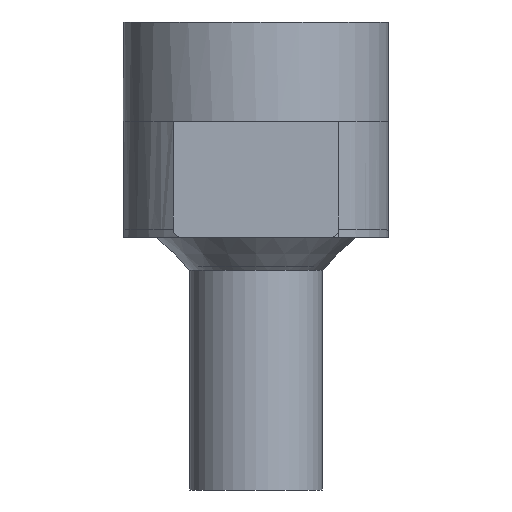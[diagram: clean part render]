
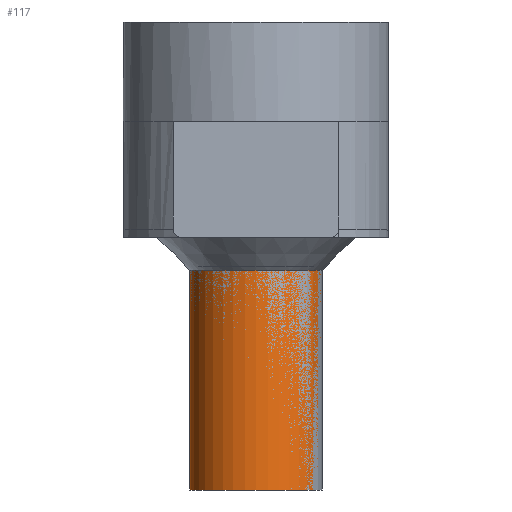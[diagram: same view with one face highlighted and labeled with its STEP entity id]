
A CAD part, front view. The second image highlights one B-rep face of the part: STEP entity #117.
In plain terms, the highlighted cylindrical face has radius 12.7 mm (diameter 25.4 mm), a full revolution.
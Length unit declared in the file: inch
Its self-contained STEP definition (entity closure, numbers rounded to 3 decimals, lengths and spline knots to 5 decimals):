
#117=ADVANCED_FACE('',(#157,#158),#146,.T.);
#146=CYLINDRICAL_SURFACE('',#494,0.5);
#157=FACE_BOUND('',#199,.T.);
#158=FACE_BOUND('',#200,.T.);
#199=EDGE_LOOP('',(#313));
#200=EDGE_LOOP('',(#314));
#281=CIRCLE('',#490,0.5);
#283=CIRCLE('',#493,0.5);
#313=ORIENTED_EDGE('',*,*,#442,.F.);
#314=ORIENTED_EDGE('',*,*,#440,.F.);
#402=VERTEX_POINT('',#727);
#404=VERTEX_POINT('',#732);
#440=EDGE_CURVE('',#402,#402,#281,.T.);
#442=EDGE_CURVE('',#404,#404,#283,.T.);
#490=AXIS2_PLACEMENT_3D('',#726,#556,#557);
#493=AXIS2_PLACEMENT_3D('',#731,#562,#563);
#494=AXIS2_PLACEMENT_3D('',#733,#564,#565);
#556=DIRECTION('',(0.,0.,1.));
#557=DIRECTION('',(0.,1.,0.));
#562=DIRECTION('',(0.,0.,-1.));
#563=DIRECTION('',(1.,0.,0.));
#564=DIRECTION('',(0.,0.,1.));
#565=DIRECTION('',(-1.,0.,0.));
#726=CARTESIAN_POINT('',(0.,0.,-1.125));
#727=CARTESIAN_POINT('',(0.,0.5,-1.125));
#731=CARTESIAN_POINT('',(0.,0.,-2.7812));
#732=CARTESIAN_POINT('',(0.5,0.,-2.7812));
#733=CARTESIAN_POINT('',(0.,0.,-2.25));
